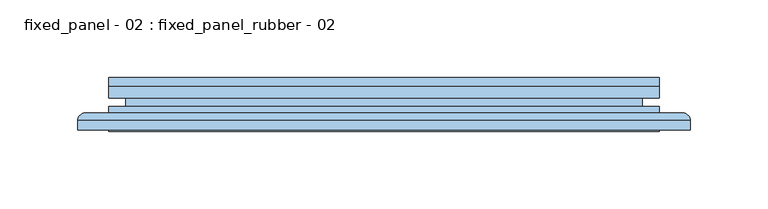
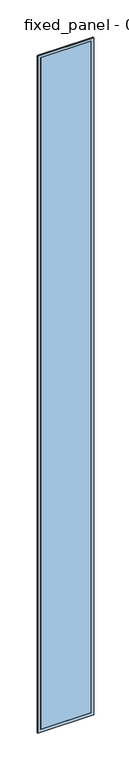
"""IFC4 building model written with IfcOpenShell, lengths in millimetres: window geometry, fixed_panel - 02 : fixed_panel_rubber - 02."""

from ifc_helpers import new_model, si_unit, frame, origin, origin_with_axes, place, context, project, spatial, polyline, ellipse_curve, outline, extrude, faceted_brep, source, transform, mapped, element, save
from ifc_brep_helpers import plane_surface, cylinder_surface, advanced_brep


def fixed_panel_02_fixed_panel_rubber_02_9ab53f43(model_context):
    return source(origin(), model_context, "Body", "SolidModel", [
        advanced_brep(
        [(177.49569, -27.9878211, 5000.0), (182.49569, -22.9878211, 5005.0), (182.49569, -22.9878211, -5.0), (177.49569, -27.9878211, 0.0), (192.4933679, -22.9878211, -14.9976779), (-192.4933679, -22.9878211, -14.9976779), (-192.4933679, -22.9878211, 5014.9976779), (192.4933679, -22.9878211, 5014.9976779), (-182.49569, -22.9878211, 5005.0), (-182.49569, -22.9878211, -5.0), (-177.49569, -27.9878211, 0.0), (177.49569, -34.0, 5000.0), (177.49569, -34.0, 0.0), (-177.49569, -34.0, 0.0), (197.4890435, -34.0, 5019.9933535), (-197.4890435, -34.0, 5019.9933535), (-197.4890435, -34.0, -19.9933535), (197.4890435, -34.0, -19.9933535), (-177.49569, -34.0, 5000.0), (197.4890435, -27.9834967, 5019.9933535), (197.4890435, -27.9834967, -19.9933535), (-197.4890435, -27.9834967, -19.9933535), (-177.49569, -27.9878211, 5000.0), (-197.4890435, -27.9834967, 5019.9933535)],
        [
            (0, 1, ellipse_curve(frame((182.49569, -27.9878211, 5005.0), z_axis=(0.7071067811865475, 0.0, -0.7071067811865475), x_axis=(0.7071067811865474, 0.0, 0.7071067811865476)), 7.0710678, 5.0)),
            (1, 2),
            (2, 3, ellipse_curve(frame((182.49569, -27.9878211, -5.0), z_axis=(0.7071067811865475, 0.0, 0.7071067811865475), x_axis=(-0.7071067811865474, 0.0, 0.7071067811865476)), 7.0710678, 5.0)),
            (3, 0),
            (4, 5),
            (5, 6),
            (6, 7),
            (7, 4),
            (1, 8),
            (8, 9),
            (9, 2),
            (9, 10, ellipse_curve(frame((-182.49569, -27.9878211, -5.0), z_axis=(0.7071067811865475, 0.0, -0.7071067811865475), x_axis=(0.7071067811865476, 0.0, 0.7071067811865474)), 7.0710678, 5.0)),
            (10, 3),
            (11, 0),
            (3, 12),
            (12, 11),
            (10, 13),
            (13, 12),
            (14, 15),
            (15, 16),
            (16, 17),
            (17, 14),
            (13, 18),
            (18, 11),
            (19, 14),
            (17, 20),
            (20, 19),
            (16, 21),
            (21, 20),
            (7, 19, ellipse_curve(frame((192.4933679, -27.9834967, 5014.9976779), z_axis=(0.7071067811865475, 0.0, -0.7071067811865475), x_axis=(0.7071067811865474, 0.0, 0.7071067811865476)), 7.0649521, 4.9956756)),
            (20, 4, ellipse_curve(frame((192.4933679, -27.9834967, -14.9976779), z_axis=(0.7071067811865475, 0.0, 0.7071067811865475), x_axis=(-0.7071067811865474, 0.0, 0.7071067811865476)), 7.0649521, 4.9956756)),
            (21, 5, ellipse_curve(frame((-192.4933679, -27.9834967, -14.9976779), z_axis=(0.7071067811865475, 0.0, -0.7071067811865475), x_axis=(0.7071067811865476, 0.0, 0.7071067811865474)), 7.0649521, 4.9956756)),
            (8, 22, ellipse_curve(frame((-182.49569, -27.9878211, 5005.0), z_axis=(-0.7071067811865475, 0.0, -0.7071067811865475), x_axis=(0.7071067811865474, 0.0, -0.7071067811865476)), 7.0710678, 5.0)),
            (22, 10),
            (22, 18),
            (15, 23),
            (23, 21),
            (23, 6, ellipse_curve(frame((-192.4933679, -27.9834967, 5014.9976779), z_axis=(-0.7071067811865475, 0.0, -0.7071067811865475), x_axis=(0.7071067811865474, 0.0, -0.7071067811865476)), 7.0649521, 4.9956756)),
            (0, 22),
            (19, 23),
        ],
        [
            cylinder_surface(frame((182.49569, -27.9878211, 5000.0), z_axis=(0.0, 0.0, 1.0), x_axis=(1.0, 0.0, 0.0)), 5.0),
            plane_surface(frame((-192.4933679, -22.9878211, 5014.9976779), z_axis=(0.0, 1.0, 0.0), x_axis=(1.0, 0.0, 0.0))),
            cylinder_surface(frame((177.49569, -27.9878211, -5.0), z_axis=(1.0, 0.0, 0.0), x_axis=(0.0, 0.0, -1.0)), 5.0),
            plane_surface(frame((177.49569, -27.9878211, 5000.0), z_axis=(-1.0, 0.0, 0.0), x_axis=(0.0, 0.0, -1.0))),
            plane_surface(frame((177.49569, -27.9878211, 0.0), z_axis=(0.0, 0.0, 1.0), x_axis=(-1.0, 0.0, 0.0))),
            plane_surface(frame((-177.49569, -34.0, 5000.0), z_axis=(0.0, -1.0, 0.0), x_axis=(1.0, 0.0, 0.0))),
            plane_surface(frame((197.4890435, -34.0, 5019.9933535), z_axis=(1.0, 0.0, 0.0), x_axis=(0.0, 0.0, -1.0))),
            plane_surface(frame((197.4890435, -34.0, -19.9933535), z_axis=(0.0, 0.0, -1.0), x_axis=(-1.0, 0.0, 0.0))),
            cylinder_surface(frame((192.4933679, -27.9834967, 5000.0), z_axis=(0.0, 0.0, 1.0), x_axis=(1.0, 0.0, 0.0)), 4.9956756),
            cylinder_surface(frame((177.49569, -27.9834967, -14.9976779), z_axis=(1.0, 0.0, 0.0), x_axis=(0.0, 0.0, -1.0)), 4.9956756),
            cylinder_surface(frame((-182.49569, -27.9878211, 0.0), z_axis=(0.0, 0.0, -1.0), x_axis=(-1.0, 0.0, 0.0)), 5.0),
            plane_surface(frame((-177.49569, -27.9878211, 0.0), z_axis=(1.0, 0.0, 0.0), x_axis=(0.0, 0.0, 1.0))),
            plane_surface(frame((-197.4890435, -34.0, -19.9933535), z_axis=(-1.0, 0.0, 0.0), x_axis=(0.0, 0.0, 1.0))),
            cylinder_surface(frame((-192.4933679, -27.9834967, 0.0), z_axis=(0.0, 0.0, -1.0), x_axis=(-1.0, 0.0, 0.0)), 4.9956756),
            cylinder_surface(frame((-177.49569, -27.9878211, 5005.0), z_axis=(-1.0, 0.0, 0.0), x_axis=(0.0, 0.0, 1.0)), 5.0),
            plane_surface(frame((-177.49569, -27.9878211, 5000.0), z_axis=(0.0, 0.0, -1.0), x_axis=(1.0, 0.0, 0.0))),
            plane_surface(frame((-197.4890435, -34.0, 5019.9933535), z_axis=(0.0, 0.0, 1.0), x_axis=(1.0, 0.0, 0.0))),
            cylinder_surface(frame((-177.49569, -27.9834967, 5014.9976779), z_axis=(-1.0, 0.0, 0.0), x_axis=(0.0, 0.0, 1.0)), 4.9956756),
        ],
        [
            (0, [[1, 2, 3, 4]]),
            (1, [[5, 6, 7, 8], [9, 10, 11, -2]]),
            (2, [[-3, -11, 12, 13]]),
            (3, [[14, -4, 15, 16]]),
            (4, [[-15, -13, 17, 18]]),
            (5, [[19, 20, 21, 22], [-18, 23, 24, -16]]),
            (6, [[25, -22, 26, 27]]),
            (7, [[-26, -21, 28, 29]]),
            (8, [[30, -27, 31, -8]]),
            (9, [[-31, -29, 32, -5]]),
            (10, [[-12, -10, 33, 34]]),
            (11, [[-17, -34, 35, -23]]),
            (12, [[-28, -20, 36, 37]]),
            (13, [[-32, -37, 38, -6]]),
            (14, [[-33, -9, -1, 39]]),
            (15, [[-35, -39, -14, -24]]),
            (16, [[-36, -19, -25, 40]]),
            (17, [[-38, -40, -30, -7]]),
        ],
    ),
        faceted_brep([(151.49569, -26.0, 4974.0), (151.49569, -6.0, 4974.0), (151.49569, -6.0, 26.0), (151.49569, -26.0, 26.0), (177.49569, -6.0, 0.0), (-177.49569, -6.0, 0.0), (-177.49569, -6.0, 5000.0), (177.49569, -6.0, 5000.0), (-151.49569, -6.0, 4974.0), (-151.49569, -6.0, 26.0), (-151.49569, -26.0, 26.0), (177.49569, -26.0, 5000.0), (-177.49569, -26.0, 5000.0), (-177.49569, -26.0, 0.0), (177.49569, -26.0, 0.0), (-151.49569, -26.0, 4974.0), (177.49569, -18.8, 5000.0), (177.49569, -18.8, 0.0), (-177.49569, -18.8, 0.0), (-177.49569, -18.8, 5000.0), (166.49569, -18.8, 4989.0), (-166.49569, -18.8, 4989.0), (-166.49569, -18.8, 11.0), (166.49569, -18.8, 11.0), (166.49569, -13.2, 4989.0), (166.49569, -13.2, 11.0), (-166.49569, -13.2, 11.0), (177.49569, -13.2, 5000.0), (-177.49569, -13.2, 5000.0), (-177.49569, -13.2, 0.0), (177.49569, -13.2, 0.0), (-166.49569, -13.2, 4989.0)], [[[0, 1, 2, 3]], [[4, 5, 6, 7], [1, 8, 9, 2]], [[3, 2, 9, 10]], [[11, 12, 13, 14], [3, 10, 15, 0]], [[16, 11, 14, 17]], [[17, 14, 13, 18]], [[17, 18, 19, 16], [20, 21, 22, 23]], [[24, 20, 23, 25]], [[25, 23, 22, 26]], [[27, 28, 29, 30], [25, 26, 31, 24]], [[7, 27, 30, 4]], [[4, 30, 29, 5]], [[10, 9, 8, 15]], [[18, 13, 12, 19]], [[26, 22, 21, 31]], [[5, 29, 28, 6]], [[15, 8, 1, 0]], [[19, 12, 11, 16]], [[31, 21, 20, 24]], [[6, 28, 27, 7]]]),
        extrude(outline(polyline([(177.49569, -34.0), (-177.49569, -34.0), (-177.49569, -26.0), (177.49569, -26.0), (177.49569, -34.0)])), origin_with_axes(), (0.0, 0.0, 1.0), 5000.0),
        extrude(outline(polyline([(177.49569, -6.0), (-177.49569, -6.0), (-177.49569, 0.0), (177.49569, 0.0), (177.49569, -6.0)])), origin_with_axes(), (0.0, 0.0, 1.0), 5000.0),
    ])


if __name__ == "__main__":
    model = new_model("IFC4")
    model_context = context("Model", 3, world=origin())
    ifc_project = project(units=[si_unit("LENGTHUNIT", "METRE", prefix="MILLI")], contexts=[model_context])
    site = spatial("IfcSite", under=ifc_project)
    building = spatial("IfcBuilding", under=site)
    placement = place(None, origin())
    fixed_panel_02_fixed_panel_rubber_02_shape = fixed_panel_02_fixed_panel_rubber_02_9ab53f43(model_context)
    element("IfcWindow", 1, ObjectType="fixed_panel - 02 : fixed_panel_rubber - 02", at=placement, inside=building, context=model_context, shape_type="MappedRepresentation", body=[
        mapped(fixed_panel_02_fixed_panel_rubber_02_shape, transform((0.0, 0.0, 0.0), x_axis=(1.0, 0.0, 0.0), y_axis=(0.0, 1.0, 0.0), z_axis=(0.0, 0.0, 1.0))),
    ])
    save(model, "model.ifc")
